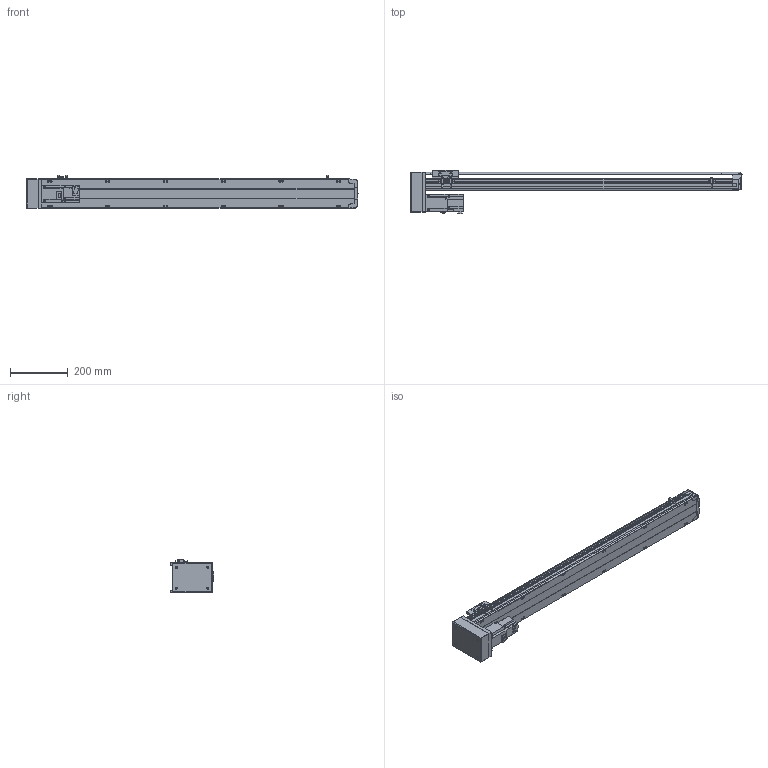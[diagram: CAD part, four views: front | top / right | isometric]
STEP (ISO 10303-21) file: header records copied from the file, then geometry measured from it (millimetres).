
FILE_DESCRIPTION(/* description */ ('STEP AP214'),/* implementation_level */ '2;1');
FILE_NAME(/* name */ 'PSS120-L10-S900-BM-T40-C1-N(0)',/* time_stamp */ '2022-06-06T02:26:59+02:00',/* author */ ('License CC BY-ND 4.0'),/* organization */ ('CADENAS'),/* preprocessor_version */ 'ST-DEVELOPER v18.102',/* originating_system */ 'PARTsolutions',/* authorisation */ ' ');
FILE_SCHEMA (('AUTOMOTIVE_DESIGN {1 0 10303 214 3 1 1}'));
Length unit declared in the file: millimetre
Products named in the file (8): PSS120-L10-S900-BM-T40-C1-N(0); PSS120-S900-BM-N_S; T40-p1; PSS120BM-N_h; PSS120-N_sensor; PSS120-BM-C1-N_sl; PSS120-N_Q; PSS120-S900-BM-C1-N_body
Assembly tree (9 placements, depth 2):
  PSS120-L10-S900-BM-T40-C1-N(0)
    PSS120-S900-BM-N_S
    T40-p1
    PSS120BM-N_h
    PSS120-N_sensor  x3
    PSS120-BM-C1-N_sl
    PSS120-N_Q
    PSS120-S900-BM-C1-N_body
Bounding box: 1149.35 x 151.8 x 117.7 mm (x, y, z)
Volume: 4573981.8 mm3; surface area: 753623.2 mm2
Topology: 9 solids, 9 shells, 841 faces, 2261 edges, 1500 vertices
Faces by surface type: plane 580, cylinder 237, cone 20, sphere 4
Full cylindrical faces by diameter (mm): 2.8 x3, 4 x4, 4.134 x16, 4.4 x2, 4.5 x4, 4.6 x3, 5 x6, 5.5 x19, 7 x2, 7.4 x4, 8 x4, 8.5 x16, 14 x1, 28 x1, 32 x2, 50 x1
Entity records: 22733 total; most frequent: CARTESIAN_POINT 4136, DIRECTION 3779, ORIENTED_EDGE 3694, EDGE_CURVE 1847, LINE 1305, VECTOR 1305, VERTEX_POINT 1286, AXIS2_PLACEMENT_3D 1237
